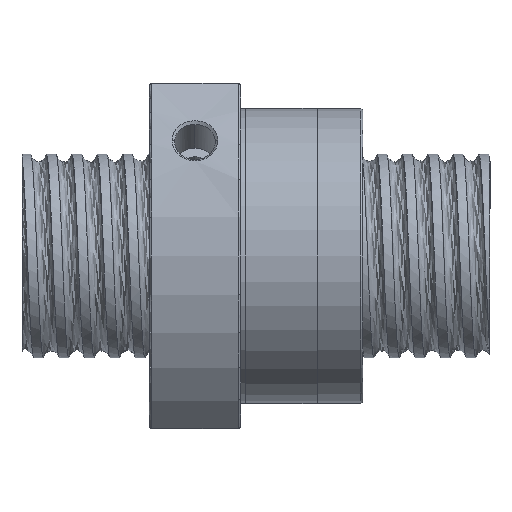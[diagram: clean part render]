
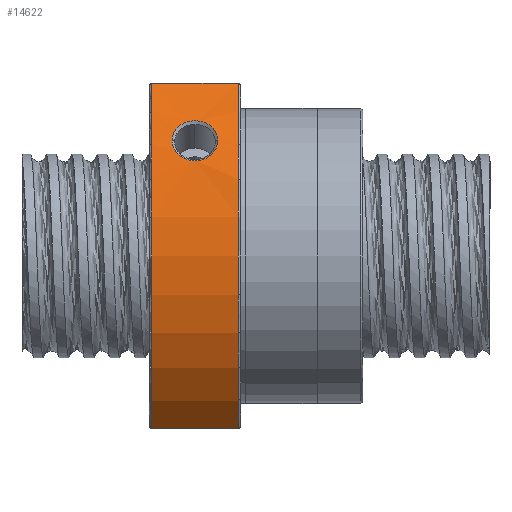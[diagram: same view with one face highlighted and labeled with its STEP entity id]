
A CAD part, front view. The second image highlights one B-rep face of the part: STEP entity #14622.
In plain terms, the highlighted cylindrical face has radius 45.5 mm (diameter 91 mm), a partial arc.
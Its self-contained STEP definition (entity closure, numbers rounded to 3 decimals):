
#4684 = B_SPLINE_CURVE_WITH_KNOTS ( 'NONE', 3,
 ( #4739, #4738, #4737, #4735, #4734, #4733, #4732, #4731, #4730, #4729, #4728, #4727, #4726, #4725, #4724, #4723, #4722, #4721 ),
 .UNSPECIFIED., .F., .F.,
 ( 4, 2, 2, 2, 2, 2, 2, 2, 4 ),
 ( 0., 0.063, 0.125, 0.188, 0.25, 0.313, 0.375, 0.438, 0.5 ),
 .UNSPECIFIED. ) ;
#4685 = CARTESIAN_POINT ( 'NONE',  ( -28.5, -39.404, 22.75 ) ) ;
#4721 = CARTESIAN_POINT ( 'NONE',  ( -28.5, -39.404, 22.75 ) ) ;
#4722 = CARTESIAN_POINT ( 'NONE',  ( -28.5, -39.105, 23.268 ) ) ;
#4723 = CARTESIAN_POINT ( 'NONE',  ( -28.616, -38.804, 23.766 ) ) ;
#4724 = CARTESIAN_POINT ( 'NONE',  ( -29.078, -38.204, 24.719 ) ) ;
#4725 = CARTESIAN_POINT ( 'NONE',  ( -29.402, -37.933, 25.13 ) ) ;
#4726 = CARTESIAN_POINT ( 'NONE',  ( -30.237, -37.459, 25.831 ) ) ;
#4727 = CARTESIAN_POINT ( 'NONE',  ( -30.724, -37.271, 26.1 ) ) ;
#4728 = CARTESIAN_POINT ( 'NONE',  ( -31.839, -37.001, 26.481 ) ) ;
#4729 = CARTESIAN_POINT ( 'NONE',  ( -32.413, -36.932, 26.576 ) ) ;
#4730 = CARTESIAN_POINT ( 'NONE',  ( -33.592, -36.932, 26.576 ) ) ;
#4731 = CARTESIAN_POINT ( 'NONE',  ( -34.166, -37.001, 26.481 ) ) ;
#4732 = CARTESIAN_POINT ( 'NONE',  ( -35.279, -37.272, 26.099 ) ) ;
#4733 = CARTESIAN_POINT ( 'NONE',  ( -35.765, -37.46, 25.83 ) ) ;
#4734 = CARTESIAN_POINT ( 'NONE',  ( -36.598, -37.933, 25.13 ) ) ;
#4735 = CARTESIAN_POINT ( 'NONE',  ( -36.922, -38.205, 24.717 ) ) ;
#4737 = CARTESIAN_POINT ( 'NONE',  ( -37.384, -38.805, 23.764 ) ) ;
#4738 = CARTESIAN_POINT ( 'NONE',  ( -37.5, -39.106, 23.267 ) ) ;
#4739 = CARTESIAN_POINT ( 'NONE',  ( -37.5, -39.404, 22.75 ) ) ;
#4740 = CARTESIAN_POINT ( 'NONE',  ( -37.5, -39.404, 22.75 ) ) ;
#11078 = VERTEX_POINT ( 'NONE', #4685 ) ;
#11080 = EDGE_CURVE ( 'NONE', #11082, #11078, #4684, .T. ) ;
#11082 = VERTEX_POINT ( 'NONE', #4740 ) ;
#13270 = DIRECTION ( 'NONE',  ( 0., 0., 1. ) ) ;
#13271 = DIRECTION ( 'NONE',  ( -1., 0., 0. ) ) ;
#13272 = CARTESIAN_POINT ( 'NONE',  ( 0., 0., 0. ) ) ;
#13273 = AXIS2_PLACEMENT_3D ( 'NONE', #13272, #13271, #13270 ) ;
#13275 = CYLINDRICAL_SURFACE ( 'NONE', #13273, 45.5 ) ;
#13276 = FACE_OUTER_BOUND ( 'NONE', #14704, .T. ) ;
#13277 = FACE_BOUND ( 'NONE', #14700, .T. ) ;
#13563 = CARTESIAN_POINT ( 'NONE',  ( -28.5, -39.404, 22.75 ) ) ;
#13568 = CARTESIAN_POINT ( 'NONE',  ( -28.529, -39.699, 22.234 ) ) ;
#13569 = CARTESIAN_POINT ( 'NONE',  ( -28.5, -39.554, 22.491 ) ) ;
#13571 = B_SPLINE_CURVE_WITH_KNOTS ( 'NONE', 3,
 ( #13563, #13569, #13568, #13630, #13629, #13628, #13627, #13626, #13625, #13624, #13623, #13622, #13621, #13620, #13619, #13618, #13617, #13616, #13615, #13614 ),
 .UNSPECIFIED., .F., .F.,
 ( 4, 2, 2, 2, 2, 2, 2, 2, 2, 4 ),
 ( 0.5, 0.531, 0.562, 0.625, 0.687, 0.75, 0.812, 0.875, 0.937, 1. ),
 .UNSPECIFIED. ) ;
#13614 = CARTESIAN_POINT ( 'NONE',  ( -37.5, -39.404, 22.75 ) ) ;
#13615 = CARTESIAN_POINT ( 'NONE',  ( -37.5, -39.702, 22.234 ) ) ;
#13616 = CARTESIAN_POINT ( 'NONE',  ( -37.384, -39.982, 21.725 ) ) ;
#13617 = CARTESIAN_POINT ( 'NONE',  ( -36.922, -40.509, 20.727 ) ) ;
#13618 = CARTESIAN_POINT ( 'NONE',  ( -36.598, -40.729, 20.287 ) ) ;
#13619 = CARTESIAN_POINT ( 'NONE',  ( -35.765, -41.099, 19.526 ) ) ;
#13620 = CARTESIAN_POINT ( 'NONE',  ( -35.278, -41.238, 19.228 ) ) ;
#13621 = CARTESIAN_POINT ( 'NONE',  ( -34.166, -41.434, 18.803 ) ) ;
#13622 = CARTESIAN_POINT ( 'NONE',  ( -33.591, -41.482, 18.695 ) ) ;
#13623 = CARTESIAN_POINT ( 'NONE',  ( -32.413, -41.482, 18.696 ) ) ;
#13624 = CARTESIAN_POINT ( 'NONE',  ( -31.838, -41.434, 18.803 ) ) ;
#13625 = CARTESIAN_POINT ( 'NONE',  ( -30.725, -41.238, 19.227 ) ) ;
#13626 = CARTESIAN_POINT ( 'NONE',  ( -30.236, -41.1, 19.525 ) ) ;
#13627 = CARTESIAN_POINT ( 'NONE',  ( -29.403, -40.73, 20.285 ) ) ;
#13628 = CARTESIAN_POINT ( 'NONE',  ( -29.077, -40.509, 20.727 ) ) ;
#13629 = CARTESIAN_POINT ( 'NONE',  ( -28.732, -40.116, 21.472 ) ) ;
#13630 = CARTESIAN_POINT ( 'NONE',  ( -28.645, -39.98, 21.725 ) ) ;
#13649 = CARTESIAN_POINT ( 'NONE',  ( -24.5, -30.237, 34. ) ) ;
#13650 = DIRECTION ( 'NONE',  ( 0., 0., -1. ) ) ;
#13651 = DIRECTION ( 'NONE',  ( -1., 0., 0. ) ) ;
#13652 = CARTESIAN_POINT ( 'NONE',  ( -24.5, 0., 0. ) ) ;
#13653 = AXIS2_PLACEMENT_3D ( 'NONE', #13652, #13651, #13650 ) ;
#13654 = CIRCLE ( 'NONE', #13653, 45.5 ) ;
#13655 = CARTESIAN_POINT ( 'NONE',  ( -24.5, -30.237, -34. ) ) ;
#13656 = CARTESIAN_POINT ( 'NONE',  ( -41.5, -30.237, -34. ) ) ;
#13657 = DIRECTION ( 'NONE',  ( 1., 0., 0. ) ) ;
#13658 = VECTOR ( 'NONE', #13657, 1000. ) ;
#13659 = CARTESIAN_POINT ( 'NONE',  ( 0., -30.237, -34. ) ) ;
#13660 = LINE ( 'NONE', #13659, #13658 ) ;
#13707 = DIRECTION ( 'NONE',  ( 0., 0., 1. ) ) ;
#13708 = DIRECTION ( 'NONE',  ( 1., 0., 0. ) ) ;
#13709 = CARTESIAN_POINT ( 'NONE',  ( -41.5, 0., 0. ) ) ;
#13710 = AXIS2_PLACEMENT_3D ( 'NONE', #13709, #13708, #13707 ) ;
#13711 = CIRCLE ( 'NONE', #13710, 45.5 ) ;
#13712 = CARTESIAN_POINT ( 'NONE',  ( -41.5, -30.237, 34. ) ) ;
#13713 = DIRECTION ( 'NONE',  ( -1., 0., 0. ) ) ;
#13714 = VECTOR ( 'NONE', #13713, 1000. ) ;
#13715 = CARTESIAN_POINT ( 'NONE',  ( 0., -30.237, 34. ) ) ;
#13720 = LINE ( 'NONE', #13715, #13714 ) ;
#14622 = ADVANCED_FACE ( 'NONE', ( #13277, #13276 ), #13275, .T. ) ;
#14700 = EDGE_LOOP ( 'NONE', ( #14701, #14702 ) ) ;
#14701 = ORIENTED_EDGE ( 'NONE', *, *, #11080, .T. ) ;
#14702 = ORIENTED_EDGE ( 'NONE', *, *, #14703, .T. ) ;
#14703 = EDGE_CURVE ( 'NONE', #11078, #11082, #13571, .T. ) ;
#14704 = EDGE_LOOP ( 'NONE', ( #14725, #14729, #14764, #14766 ) ) ;
#14725 = ORIENTED_EDGE ( 'NONE', *, *, #14726, .T. ) ;
#14726 = EDGE_CURVE ( 'NONE', #14727, #14728, #13660, .T. ) ;
#14727 = VERTEX_POINT ( 'NONE', #13656 ) ;
#14728 = VERTEX_POINT ( 'NONE', #13655 ) ;
#14729 = ORIENTED_EDGE ( 'NONE', *, *, #14730, .T. ) ;
#14730 = EDGE_CURVE ( 'NONE', #14728, #14731, #13654, .T. ) ;
#14731 = VERTEX_POINT ( 'NONE', #13649 ) ;
#14763 = EDGE_CURVE ( 'NONE', #14731, #14765, #13720, .T. ) ;
#14764 = ORIENTED_EDGE ( 'NONE', *, *, #14763, .T. ) ;
#14765 = VERTEX_POINT ( 'NONE', #13712 ) ;
#14766 = ORIENTED_EDGE ( 'NONE', *, *, #14767, .T. ) ;
#14767 = EDGE_CURVE ( 'NONE', #14765, #14727, #13711, .T. ) ;
